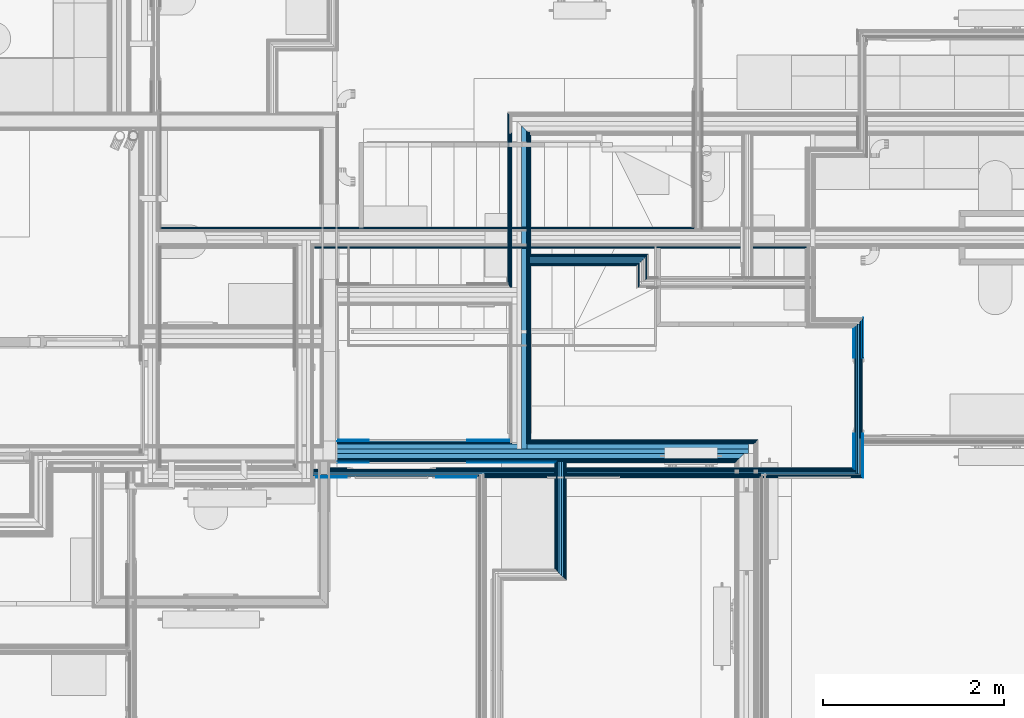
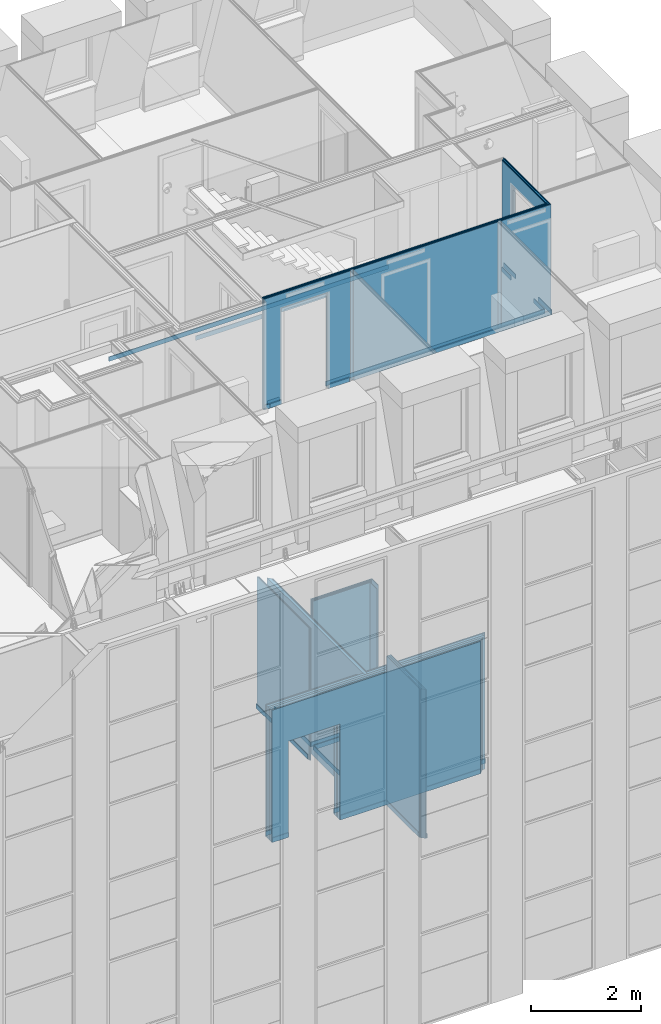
# One storey, part 39 of 169: 62 building element parts, 4 openings, 8 elements without a shape of their own.
"""IFC2X3 building model written with IfcOpenShell, lengths in metres."""

from ifc_helpers import new_model, entity, si_unit, converted_unit, derived_unit, money_unit, direction, frame, frame_2d, origin_with_axes, place, context, subcontext, project, spatial, polyline, rectangle, outline, extrude, material, type_object, element, aggregate, save


model = new_model("IFC2X3")

# Units and contexts
model_context = context("Model", 3, precision=1e-05, world=origin_with_axes(), true_north=direction((0.0, 1.0)))
body_context = subcontext(model_context, "Body", "Model", "MODEL_VIEW", scale=1.0)
ifc_project = project(units=[si_unit("LENGTHUNIT", "METRE"), si_unit("AREAUNIT", "SQUARE_METRE"), si_unit("VOLUMEUNIT", "CUBIC_METRE"), si_unit("ABSORBEDDOSEUNIT", "GRAY"), si_unit("AMOUNTOFSUBSTANCEUNIT", "MOLE"), si_unit("DOSEEQUIVALENTUNIT", "SIEVERT"), si_unit("ELECTRICCAPACITANCEUNIT", "FARAD"), si_unit("ELECTRICCHARGEUNIT", "COULOMB"), si_unit("ELECTRICCONDUCTANCEUNIT", "SIEMENS"), si_unit("ELECTRICCURRENTUNIT", "AMPERE"), si_unit("ELECTRICRESISTANCEUNIT", "OHM"), si_unit("ELECTRICVOLTAGEUNIT", "VOLT"), si_unit("ENERGYUNIT", "JOULE"), si_unit("FORCEUNIT", "NEWTON"), si_unit("FREQUENCYUNIT", "HERTZ"), si_unit("ILLUMINANCEUNIT", "LUX"), si_unit("INDUCTANCEUNIT", "HENRY"), si_unit("LUMINOUSFLUXUNIT", "LUMEN"), si_unit("LUMINOUSINTENSITYUNIT", "CANDELA"), si_unit("MAGNETICFLUXDENSITYUNIT", "TESLA"), si_unit("MAGNETICFLUXUNIT", "WEBER"), si_unit("MASSUNIT", "GRAM"), converted_unit("PLANEANGLEUNIT", "degree", entity("IfcReal", 0.0174532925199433), si_unit("PLANEANGLEUNIT", "RADIAN"), dimensions=[0, 0, 0, 0, 0, 0, 0]), si_unit("POWERUNIT", "WATT"), si_unit("PRESSUREUNIT", "PASCAL"), si_unit("RADIOACTIVITYUNIT", "BECQUEREL"), si_unit("SOLIDANGLEUNIT", "STERADIAN"), si_unit("THERMODYNAMICTEMPERATUREUNIT", "KELVIN"), si_unit("TIMEUNIT", "SECOND"), derived_unit("ACCELERATIONUNIT", [(si_unit("LENGTHUNIT", "METRE"), 1), (si_unit("TIMEUNIT", "SECOND"), -2)]), derived_unit("ANGULARVELOCITYUNIT", [(converted_unit("PLANEANGLEUNIT", "degree", entity("IfcReal", 0.0174532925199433), si_unit("PLANEANGLEUNIT", "RADIAN"), dimensions=[0, 0, 0, 0, 0, 0, 0]), 1), (si_unit("TIMEUNIT", "SECOND"), -1)]), derived_unit("CURVATUREUNIT", [(converted_unit("PLANEANGLEUNIT", "degree", entity("IfcReal", 0.0174532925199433), si_unit("PLANEANGLEUNIT", "RADIAN"), dimensions=[0, 0, 0, 0, 0, 0, 0]), 1), (si_unit("LENGTHUNIT", "METRE"), -1)]), derived_unit("DYNAMICVISCOSITYUNIT", [(si_unit("PRESSUREUNIT", "PASCAL"), 1), (si_unit("TIMEUNIT", "SECOND"), 1)]), derived_unit("HEATFLUXDENSITYUNIT", [(si_unit("POWERUNIT", "WATT"), 1), (si_unit("LENGTHUNIT", "METRE"), -2)]), derived_unit("HEATINGVALUEUNIT", [(si_unit("ENERGYUNIT", "JOULE"), 1), (si_unit("MASSUNIT", "GRAM"), -1)]), derived_unit("INTEGERCOUNTRATEUNIT", [(si_unit("TIMEUNIT", "SECOND"), -1)]), derived_unit("IONCONCENTRATIONUNIT", [(si_unit("MASSUNIT", "GRAM"), 1), (si_unit("VOLUMEUNIT", "CUBIC_METRE"), -1)]), derived_unit("ISOTHERMALMOISTURECAPACITYUNIT", [(si_unit("VOLUMEUNIT", "CUBIC_METRE"), 1), (si_unit("MASSUNIT", "GRAM"), -1)]), derived_unit("KINEMATICVISCOSITYUNIT", [(si_unit("AREAUNIT", "SQUARE_METRE"), 1), (si_unit("TIMEUNIT", "SECOND"), -1)]), derived_unit("LINEARFORCEUNIT", [(si_unit("FORCEUNIT", "NEWTON"), 1), (si_unit("LENGTHUNIT", "METRE"), -1)]), derived_unit("LINEARMOMENTUNIT", [(si_unit("FORCEUNIT", "NEWTON"), 1), (si_unit("LENGTHUNIT", "METRE"), -1)]), derived_unit("LINEARSTIFFNESSUNIT", [(si_unit("FORCEUNIT", "NEWTON"), 1), (si_unit("LENGTHUNIT", "METRE"), -1)]), derived_unit("LINEARVELOCITYUNIT", [(si_unit("LENGTHUNIT", "METRE"), 1), (si_unit("TIMEUNIT", "SECOND"), -1)]), derived_unit("LUMINOUSINTENSITYDISTRIBUTIONUNIT", [(si_unit("LUMINOUSINTENSITYUNIT", "CANDELA"), 1), (si_unit("LUMINOUSFLUXUNIT", "LUMEN"), -1)]), derived_unit("MASSDENSITYUNIT", [(si_unit("MASSUNIT", "GRAM"), 1), (si_unit("VOLUMEUNIT", "CUBIC_METRE"), -1)]), derived_unit("MASSFLOWRATEUNIT", [(si_unit("MASSUNIT", "GRAM"), 1), (si_unit("TIMEUNIT", "SECOND"), -1)]), derived_unit("MASSPERLENGTHUNIT", [(si_unit("MASSUNIT", "GRAM"), 1), (si_unit("LENGTHUNIT", "METRE"), -1)]), derived_unit("MODULUSOFELASTICITYUNIT", [(si_unit("FORCEUNIT", "NEWTON"), 1), (si_unit("AREAUNIT", "SQUARE_METRE"), -1)]), derived_unit("MODULUSOFLINEARSUBGRADEREACTIONUNIT", [(si_unit("FORCEUNIT", "NEWTON"), 1), (si_unit("LENGTHUNIT", "METRE"), -2)]), derived_unit("MODULUSOFROTATIONALSUBGRADEREACTIONUNIT", [(si_unit("FORCEUNIT", "NEWTON"), 1), (si_unit("LENGTHUNIT", "METRE"), 1)]), derived_unit("MODULUSOFSUBGRADEREACTIONUNIT", [(si_unit("FORCEUNIT", "NEWTON"), 1), (si_unit("VOLUMEUNIT", "CUBIC_METRE"), -1)]), derived_unit("MOISTUREDIFFUSIVITYUNIT", [(si_unit("VOLUMEUNIT", "CUBIC_METRE"), 1), (si_unit("TIMEUNIT", "SECOND"), -1)]), derived_unit("MOLECULARWEIGHTUNIT", [(si_unit("MASSUNIT", "GRAM"), 1), (si_unit("AMOUNTOFSUBSTANCEUNIT", "MOLE"), -1)]), derived_unit("PLANARFORCEUNIT", [(si_unit("FORCEUNIT", "NEWTON"), 1), (si_unit("LENGTHUNIT", "METRE"), -2)]), derived_unit("ROTATIONALFREQUENCYUNIT", [(si_unit("TIMEUNIT", "SECOND"), -1)]), derived_unit("ROTATIONALMASSUNIT", [(si_unit("MASSUNIT", "GRAM"), 1), (si_unit("LENGTHUNIT", "METRE"), 2)]), derived_unit("ROTATIONALSTIFFNESSUNIT", [(si_unit("FORCEUNIT", "NEWTON"), 1), (si_unit("LENGTHUNIT", "METRE"), 1), (converted_unit("PLANEANGLEUNIT", "degree", entity("IfcReal", 0.0174532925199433), si_unit("PLANEANGLEUNIT", "RADIAN"), dimensions=[0, 0, 0, 0, 0, 0, 0]), -1)]), derived_unit("SECTIONAREAINTEGRALUNIT", [(si_unit("LENGTHUNIT", "METRE"), 5)]), derived_unit("SECTIONMODULUSUNIT", [(si_unit("LENGTHUNIT", "METRE"), 3)]), derived_unit("SHEARMODULUSUNIT", [(si_unit("FORCEUNIT", "NEWTON"), 1), (si_unit("AREAUNIT", "SQUARE_METRE"), -1)]), derived_unit("SOUNDPOWERUNIT", [(si_unit("ENERGYUNIT", "JOULE"), 1), (si_unit("TIMEUNIT", "SECOND"), -1)]), derived_unit("SPECIFICHEATCAPACITYUNIT", [(si_unit("FORCEUNIT", "NEWTON"), 1), (si_unit("MASSUNIT", "GRAM"), -1), (si_unit("THERMODYNAMICTEMPERATUREUNIT", "KELVIN"), -1)]), derived_unit("TEMPERATUREGRADIENTUNIT", [(si_unit("THERMODYNAMICTEMPERATUREUNIT", "KELVIN"), 1), (si_unit("LENGTHUNIT", "METRE"), -1)]), derived_unit("THERMALADMITTANCEUNIT", [(si_unit("POWERUNIT", "WATT"), 1), (si_unit("AREAUNIT", "SQUARE_METRE"), -1), (si_unit("THERMODYNAMICTEMPERATUREUNIT", "KELVIN"), -1)]), derived_unit("THERMALCONDUCTANCEUNIT", [(si_unit("POWERUNIT", "WATT"), 1), (si_unit("LENGTHUNIT", "METRE"), -1), (si_unit("THERMODYNAMICTEMPERATUREUNIT", "KELVIN"), -1)]), derived_unit("THERMALEXPANSIONCOEFFICIENTUNIT", [(si_unit("THERMODYNAMICTEMPERATUREUNIT", "KELVIN"), -1)]), derived_unit("THERMALRESISTANCEUNIT", [(si_unit("AREAUNIT", "SQUARE_METRE"), 1), (si_unit("POWERUNIT", "WATT"), -1)]), derived_unit("THERMALTRANSMITTANCEUNIT", [(si_unit("POWERUNIT", "WATT"), 1), (si_unit("AREAUNIT", "SQUARE_METRE"), -1), (si_unit("THERMODYNAMICTEMPERATUREUNIT", "KELVIN"), -1)]), derived_unit("TORQUEUNIT", [(si_unit("FORCEUNIT", "NEWTON"), 1), (si_unit("LENGTHUNIT", "METRE"), 1)]), derived_unit("VAPORPERMEABILITYUNIT", [(si_unit("MASSUNIT", "GRAM"), 1), (si_unit("TIMEUNIT", "SECOND"), -1)]), derived_unit("VOLUMETRICFLOWRATEUNIT", [(si_unit("VOLUMEUNIT", "CUBIC_METRE"), 1), (si_unit("TIMEUNIT", "SECOND"), -1)]), derived_unit("WARPINGCONSTANTUNIT", [(si_unit("LENGTHUNIT", "METRE"), 6)]), derived_unit("WARPINGMOMENTUNIT", [(si_unit("FORCEUNIT", "NEWTON"), 1), (si_unit("LENGTHUNIT", "METRE"), 2)]), money_unit("GBP")], contexts=[model_context])

# Site, building, storey
site_placement = place(None, origin_with_axes())
site = spatial("IfcSite", under=ifc_project, at=site_placement, Name="Site", CompositionType="ELEMENT")
building_placement = place(site_placement, origin_with_axes())
building = spatial("IfcBuilding", under=site, at=building_placement, Name="Building01", CompositionType="ELEMENT")
storey_placement = place(building_placement, frame((0.0, 0.0, 5.15), z_axis=(0.0, 0.0, 1.0), x_axis=(1.0, 0.0, 0.0)))
storey = spatial("IfcBuildingStorey", under=building, at=storey_placement, Name="1F", CompositionType="ELEMENT", Elevation=5.15)

# Wall, openings, building element parts
wall_type_1 = type_object("IfcWallType", Name="SHE_A-Walls_Type01c_Partywall_225mm_twin_tall", PredefinedType="NOTDEFINED")
wall_1_placement = place(storey_placement, frame((18.0, 5.068, 0.0), z_axis=(0.0, 0.0, 1.0), x_axis=(1.0, 0.0, 0.0)))
wall_1 = element("IfcWall", 1, at=wall_1_placement, inside=storey, type_object=wall_type_1, Name="1C", ObjectType="SHE_A-Walls_Type01c_Partywall_225mm_twin_tall")
opening_1_placement = place(wall_1_placement, frame((0.353, 0.152, -0.03), z_axis=(0.0, 0.0, 1.0), x_axis=(1.0, 0.0, 0.0)))
element("IfcOpeningElement", 2, at=opening_1_placement, cuts=wall_1, Name="Opening", ObjectType="Opening", context=body_context, shape_type="SweptSolid", body=[
    extrude(rectangle(XDim=2.142, YDim=1.084, at=frame_2d((0.542, 1.071), x_axis=(0.0, -1.0))), frame((0.0, 0.0, 0.0), z_axis=(0.0, -1.0, 0.0), x_axis=(1.0, 0.0, 0.0)), (0.0, 0.0, 1.0), 0.255),
])
opening_2_placement = place(wall_1_placement, frame((0.35, 0.152, 0.0), z_axis=(0.0, 0.0, 1.0), x_axis=(1.0, 0.0, 0.0)))
element("IfcOpeningElement", 3, at=opening_2_placement, cuts=wall_1, Name="Opening", ObjectType="Opening", context=body_context, shape_type="SweptSolid", body=[
    extrude(rectangle(XDim=2.142, YDim=1.084, at=frame_2d((0.542, 1.071), x_axis=(0.0, -1.0))), frame((0.0, 0.0, 0.0), z_axis=(0.0, -1.0, 0.0), x_axis=(1.0, 0.0, 0.0)), (0.0, 0.0, 1.0), 0.255),
])
ifc_material_1 = material(Name="A_BSUK_Walls_Timber")
placement_1 = place(wall_1_placement, origin_with_axes())
building_element_part_1 = element("IfcBuildingElementPart", 4, at=placement_1, material=ifc_material_1, Name="1", context=body_context, shape_type="SweptSolid", body=[
    extrude(rectangle(XDim=2.415, YDim=0.015, at=frame_2d((1.2075, -0.0955), x_axis=(-1.0, 0.0))), frame((0.0, 0.0, 0.015), z_axis=(0.0, 0.0, 1.0), x_axis=(1.0, 0.0, 0.0)), (0.0, 0.0, 1.0), 0.1),
])
building_element_part_2 = element("IfcBuildingElementPart", 5, at=placement_1, material=ifc_material_1, Name="2", context=body_context, shape_type="SweptSolid", body=[
    extrude(outline(polyline([(4.4, -0.088), (2.51, -0.088), (2.51, -0.103), (4.385, -0.103), (4.4, -0.088)])), frame((0.0, 0.0, 0.015), z_axis=(0.0, 0.0, 1.0), x_axis=(1.0, 0.0, 0.0)), (0.0, 0.0, 1.0), 0.1),
])
ifc_material_2 = material(Name="A_BSUK_WallInternal_Finishes_Plasterboard")
building_element_part_3 = element("IfcBuildingElementPart", 6, at=placement_1, material=ifc_material_2, Name="3", context=body_context, shape_type="SweptSolid", body=[
    extrude(outline(polyline([(4.415, -0.073), (0.0, -0.073), (0.0, -0.088), (4.4, -0.088), (4.415, -0.073)])), origin_with_axes(), (0.0, 0.0, 1.0), 2.95),
])
building_element_part_4 = element("IfcBuildingElementPart", 7, at=placement_1, material=ifc_material_2, Name="4", context=body_context, shape_type="SweptSolid", body=[
    extrude(outline(polyline([(4.415, -0.073), (0.0, -0.073), (0.0, -0.088), (4.4, -0.088), (4.415, -0.073)])), origin_with_axes(), (0.0, 0.0, 1.0), 2.95),
])
building_element_part_5 = element("IfcBuildingElementPart", 8, at=placement_1, material=ifc_material_2, Name="5", context=body_context, shape_type="SweptSolid", body=[
    extrude(outline(polyline([(4.43, -0.058), (0.0, -0.058), (0.0, -0.073), (4.415, -0.073), (4.43, -0.058)])), origin_with_axes(), (0.0, 0.0, 1.0), 2.95),
])
ifc_material_3 = material(Name="Air Cavity")
building_element_part_6 = element("IfcBuildingElementPart", 9, at=placement_1, material=ifc_material_3, Name="6", context=body_context, shape_type="SweptSolid", body=[
    extrude(outline(polyline([(4.488, 0.0), (0.0, 0.0), (0.0, -0.058), (4.43, -0.058), (4.488, 0.0)])), origin_with_axes(), (0.0, 0.0, 1.0), 2.95),
])
ifc_material_4 = material(Name="A_BSUK_Insulation")
building_element_part_7 = element("IfcBuildingElementPart", 10, at=placement_1, material=ifc_material_4, Name="7", context=body_context, shape_type="SweptSolid", body=[
    extrude(rectangle(XDim=4.538, YDim=0.05, at=frame_2d((2.269, 0.025), x_axis=(-1.0, 0.0))), origin_with_axes(), (0.0, 0.0, 1.0), 2.95),
])
building_element_part_8 = element("IfcBuildingElementPart", 11, at=placement_1, material=ifc_material_3, Name="8", context=body_context, shape_type="SweptSolid", body=[
    extrude(rectangle(XDim=4.538, YDim=0.057, at=frame_2d((2.269, 0.0785), x_axis=(-1.0, 0.0))), origin_with_axes(), (0.0, 0.0, 1.0), 2.95),
])
building_element_part_9 = element("IfcBuildingElementPart", 12, at=placement_1, material=ifc_material_2, Name="9", context=body_context, shape_type="SweptSolid", body=[
    extrude(rectangle(XDim=1.927661, YDim=0.015, at=frame_2d((0.963831, 0.1145), x_axis=(-1.0, 0.0))), origin_with_axes(), (0.0, 0.0, 1.0), 2.95),
])
building_element_part_10 = element("IfcBuildingElementPart", 13, at=placement_1, material=ifc_material_2, Name="10", context=body_context, shape_type="SweptSolid", body=[
    extrude(outline(polyline([(4.61, 0.122), (2.107661, 0.122), (2.107661, 0.107), (4.595, 0.107), (4.61, 0.122)])), origin_with_axes(), (0.0, 0.0, 1.0), 2.95),
])
building_element_part_11 = element("IfcBuildingElementPart", 14, at=placement_1, material=ifc_material_2, Name="11", context=body_context, shape_type="SweptSolid", body=[
    extrude(rectangle(XDim=1.912661, YDim=0.015, at=frame_2d((0.956331, 0.1295), x_axis=(-1.0, 0.0))), origin_with_axes(), (0.0, 0.0, 1.0), 2.95),
])
building_element_part_12 = element("IfcBuildingElementPart", 15, at=placement_1, material=ifc_material_2, Name="12", context=body_context, shape_type="SweptSolid", body=[
    extrude(outline(polyline([(4.625, 0.137), (2.107661, 0.137), (2.107661, 0.122), (4.61, 0.122), (4.625, 0.137)])), origin_with_axes(), (0.0, 0.0, 1.0), 2.95),
])
building_element_part_13 = element("IfcBuildingElementPart", 16, at=placement_1, material=ifc_material_1, Name="13", context=body_context, shape_type="SweptSolid", body=[
    extrude(outline(polyline([(1.897661, 0.152), (0.015, 0.152), (0.0, 0.137), (1.897661, 0.137), (1.897661, 0.152)])), frame((0.0, 0.0, 0.015), z_axis=(0.0, 0.0, 1.0), x_axis=(1.0, 0.0, 0.0)), (0.0, 0.0, 1.0), 0.1),
])
building_element_part_14 = element("IfcBuildingElementPart", 17, at=placement_1, material=ifc_material_1, Name="14", context=body_context, shape_type="SweptSolid", body=[
    extrude(outline(polyline([(4.64, 0.152), (2.137661, 0.152), (2.137661, 0.137), (4.625, 0.137), (4.64, 0.152)])), frame((0.0, 0.0, 0.015), z_axis=(0.0, 0.0, 1.0), x_axis=(1.0, 0.0, 0.0)), (0.0, 0.0, 1.0), 0.1),
])
aggregate(wall_1, [building_element_part_1, building_element_part_2, building_element_part_3, building_element_part_4, building_element_part_5, building_element_part_6, building_element_part_7, building_element_part_8, building_element_part_9, building_element_part_10, building_element_part_11, building_element_part_12, building_element_part_13, building_element_part_14])

# Wall, building element parts
wall_2_placement = place(storey_placement, frame((19.985661, 8.732, 0.0), z_axis=(0.0, 0.0, 1.0), x_axis=(0.0, -1.0, 0.0)))
wall_2 = element("IfcWall", 18, at=wall_2_placement, inside=storey, type_object=wall_type_1, Name="1C", ObjectType="SHE_A-Walls_Type01c_Partywall_225mm_twin_tall")
placement_2 = place(wall_2_placement, origin_with_axes())
building_element_part_15 = element("IfcBuildingElementPart", 19, at=placement_2, material=ifc_material_1, Name="1", context=body_context, shape_type="SweptSolid", body=[
    extrude(outline(polyline([(1.787, -0.088), (-0.073, -0.088), (-0.088, -0.103), (1.787, -0.103), (1.787, -0.088)])), frame((0.0, 0.0, 0.015), z_axis=(0.0, 0.0, 1.0), x_axis=(1.0, 0.0, 0.0)), (0.0, 0.0, 1.0), 0.1),
])
building_element_part_16 = element("IfcBuildingElementPart", 20, at=placement_2, material=ifc_material_1, Name="2", context=body_context, shape_type="SweptSolid", body=[
    extrude(outline(polyline([(1.802, -0.088), (-0.073, -0.088), (-0.088, -0.103), (1.802, -0.103), (1.802, -0.088)])), frame((0.0, 0.0, 0.015), z_axis=(0.0, 0.0, 1.0), x_axis=(1.0, 0.0, 0.0)), (0.0, 0.0, 1.0), 0.1),
])
building_element_part_17 = element("IfcBuildingElementPart", 21, at=placement_2, material=ifc_material_2, Name="3", context=body_context, shape_type="SweptSolid", body=[
    extrude(rectangle(XDim=1.89, YDim=0.015, at=frame_2d((0.872, -0.0805), x_axis=(-1.0, 0.0))), origin_with_axes(), (0.0, 0.0, 1.0), 2.95),
])
building_element_part_18 = element("IfcBuildingElementPart", 22, at=placement_2, material=ifc_material_2, Name="6", context=body_context, shape_type="SweptSolid", body=[
    extrude(rectangle(XDim=1.89, YDim=0.015, at=frame_2d((0.887, -0.0655), x_axis=(-1.0, 0.0))), origin_with_axes(), (0.0, 0.0, 1.0), 2.95),
])
building_element_part_19 = element("IfcBuildingElementPart", 23, at=placement_2, material=ifc_material_3, Name="11", context=body_context, shape_type="SweptSolid", body=[
    extrude(outline(polyline([(3.614, 0.107), (0.107, 0.107), (0.05, 0.05), (3.614, 0.05), (3.614, 0.107)])), origin_with_axes(), (0.0, 0.0, 1.0), 2.95),
])
building_element_part_20 = element("IfcBuildingElementPart", 24, at=placement_2, material=ifc_material_2, Name="12", context=body_context, shape_type="SweptSolid", body=[
    extrude(outline(polyline([(3.557, 0.122), (0.122, 0.122), (0.107, 0.107), (3.557, 0.107), (3.557, 0.122)])), origin_with_axes(), (0.0, 0.0, 1.0), 2.95),
])
building_element_part_21 = element("IfcBuildingElementPart", 25, at=placement_2, material=ifc_material_2, Name="13", context=body_context, shape_type="SweptSolid", body=[
    extrude(rectangle(XDim=3.405, YDim=0.015, at=frame_2d((1.8245, 0.1295), x_axis=(-1.0, 0.0))), origin_with_axes(), (0.0, 0.0, 1.0), 2.95),
])
building_element_part_22 = element("IfcBuildingElementPart", 26, at=placement_2, material=ifc_material_1, Name="14", context=body_context, shape_type="SweptSolid", body=[
    extrude(rectangle(XDim=1.33, YDim=0.015, at=frame_2d((0.817, 0.1445), x_axis=(-1.0, 0.0))), frame((0.0, 0.0, 0.015), z_axis=(0.0, 0.0, 1.0), x_axis=(1.0, 0.0, 0.0)), (0.0, 0.0, 1.0), 0.1),
])
building_element_part_23 = element("IfcBuildingElementPart", 27, at=placement_2, material=ifc_material_1, Name="15", context=body_context, shape_type="SweptSolid", body=[
    extrude(rectangle(XDim=1.935, YDim=0.015, at=frame_2d((2.5595, 0.1445), x_axis=(-1.0, 0.0))), frame((0.0, 0.0, 0.015), z_axis=(0.0, 0.0, 1.0), x_axis=(1.0, 0.0, 0.0)), (0.0, 0.0, 1.0), 0.1),
])
aggregate(wall_2, [building_element_part_15, building_element_part_16, building_element_part_17, building_element_part_18, building_element_part_19, building_element_part_20, building_element_part_21, building_element_part_22, building_element_part_23])

wall_type_2 = type_object("IfcWallType", Name="SHE_A-Walls_Type05a_Partition_95mm_tall", PredefinedType="NOTDEFINED")
wall_3_placement = place(storey_placement, frame((21.382661, 6.965, 0.0), z_axis=(0.0, 0.0, 1.0), x_axis=(0.0, 1.0, 0.0)))
wall_3 = element("IfcWall", 28, at=wall_3_placement, inside=storey, type_object=wall_type_2, Name="5A", ObjectType="SHE_A-Walls_Type05a_Partition_95mm_tall")
placement_3 = place(wall_3_placement, origin_with_axes())
building_element_part_24 = element("IfcBuildingElementPart", 29, at=placement_3, material=ifc_material_2, Name="2", context=body_context, shape_type="SweptSolid", body=[
    extrude(outline(polyline([(0.273, -0.023), (0.023, -0.023), (0.035, -0.035), (0.285, -0.035), (0.273, -0.023)])), origin_with_axes(), (0.0, 0.0, 1.0), 3.32),
])
building_element_part_25 = element("IfcBuildingElementPart", 30, at=placement_3, material=ifc_material_2, Name="6", context=body_context, shape_type="SweptSolid", body=[
    extrude(outline(polyline([(0.19, 0.06), (-0.06, 0.06), (-0.048, 0.048), (0.202, 0.048), (0.19, 0.06)])), origin_with_axes(), (0.0, 0.0, 1.0), 3.32),
])
aggregate(wall_3, [building_element_part_24, building_element_part_25])

wall_4_placement = place(storey_placement, frame((21.382661, 7.215, 0.0), z_axis=(0.0, 0.0, 1.0), x_axis=(-1.0, 0.0, 0.0)))
wall_4 = element("IfcWall", 31, at=wall_4_placement, inside=storey, type_object=wall_type_2, Name="5A", ObjectType="SHE_A-Walls_Type05a_Partition_95mm_tall")
placement_4 = place(wall_4_placement, origin_with_axes())
building_element_part_26 = element("IfcBuildingElementPart", 32, at=placement_4, material=ifc_material_1, Name="1", context=body_context, shape_type="SweptSolid", body=[
    extrude(outline(polyline([(1.245, -0.035), (-0.035, -0.035), (-0.05, -0.05), (1.245, -0.05), (1.245, -0.035)])), frame((0.0, 0.0, 0.015), z_axis=(0.0, 0.0, 1.0), x_axis=(1.0, 0.0, 0.0)), (0.0, 0.0, 1.0), 0.1),
])
building_element_part_27 = element("IfcBuildingElementPart", 33, at=placement_4, material=ifc_material_2, Name="2", context=body_context, shape_type="SweptSolid", body=[
    extrude(outline(polyline([(1.26, -0.023), (-0.023, -0.023), (-0.035, -0.035), (1.26, -0.035), (1.26, -0.023)])), origin_with_axes(), (0.0, 0.0, 1.0), 3.32),
])
building_element_part_28 = element("IfcBuildingElementPart", 34, at=placement_4, material=ifc_material_3, Name="3", context=body_context, shape_type="SweptSolid", body=[
    extrude(outline(polyline([(1.26, 0.0), (0.0, 0.0), (-0.023, -0.023), (1.26, -0.023), (1.26, 0.0)])), origin_with_axes(), (0.0, 0.0, 1.0), 3.32),
])
building_element_part_29 = element("IfcBuildingElementPart", 35, at=placement_4, material=ifc_material_4, Name="4", context=body_context, shape_type="SweptSolid", body=[
    extrude(outline(polyline([(1.26, 0.025), (0.025, 0.025), (0.0, 0.0), (1.26, 0.0), (1.26, 0.025)])), origin_with_axes(), (0.0, 0.0, 1.0), 3.32),
])
building_element_part_30 = element("IfcBuildingElementPart", 36, at=placement_4, material=ifc_material_3, Name="5", context=body_context, shape_type="SweptSolid", body=[
    extrude(outline(polyline([(1.26, 0.048), (0.048, 0.048), (0.025, 0.025), (1.26, 0.025), (1.26, 0.048)])), origin_with_axes(), (0.0, 0.0, 1.0), 3.32),
])
building_element_part_31 = element("IfcBuildingElementPart", 37, at=placement_4, material=ifc_material_2, Name="6", context=body_context, shape_type="SweptSolid", body=[
    extrude(outline(polyline([(1.26, 0.06), (0.06, 0.06), (0.048, 0.048), (1.26, 0.048), (1.26, 0.06)])), origin_with_axes(), (0.0, 0.0, 1.0), 3.32),
])
building_element_part_32 = element("IfcBuildingElementPart", 38, at=placement_4, material=ifc_material_1, Name="7", context=body_context, shape_type="SweptSolid", body=[
    extrude(outline(polyline([(1.26, 0.075), (0.075, 0.075), (0.06, 0.06), (1.26, 0.06), (1.26, 0.075)])), frame((0.0, 0.0, 0.015), z_axis=(0.0, 0.0, 1.0), x_axis=(1.0, 0.0, 0.0)), (0.0, 0.0, 1.0), 0.1),
])
aggregate(wall_4, [building_element_part_26, building_element_part_27, building_element_part_28, building_element_part_29, building_element_part_30, building_element_part_31, building_element_part_32])

wall_5_placement = place(storey_placement, frame((20.475, 3.72, 0.0), z_axis=(0.0, 0.0, 1.0), x_axis=(0.0, 1.0, 0.0)))
wall_5 = element("IfcWall", 39, at=wall_5_placement, inside=storey, type_object=wall_type_2, Name="5A", ObjectType="SHE_A-Walls_Type05a_Partition_95mm_tall")
placement_5 = place(wall_5_placement, origin_with_axes())
building_element_part_33 = element("IfcBuildingElementPart", 40, at=placement_5, material=ifc_material_1, Name="1", context=body_context, shape_type="SweptSolid", body=[
    extrude(outline(polyline([(1.245, -0.035), (-0.035, -0.035), (-0.05, -0.05), (1.245, -0.05), (1.245, -0.035)])), frame((0.0, 0.0, 0.015), z_axis=(0.0, 0.0, 1.0), x_axis=(1.0, 0.0, 0.0)), (0.0, 0.0, 1.0), 0.1),
])
building_element_part_34 = element("IfcBuildingElementPart", 41, at=placement_5, material=ifc_material_2, Name="2", context=body_context, shape_type="SweptSolid", body=[
    extrude(outline(polyline([(1.26, -0.023), (-0.023, -0.023), (-0.035, -0.035), (1.26, -0.035), (1.26, -0.023)])), origin_with_axes(), (0.0, 0.0, 1.0), 3.32),
])
building_element_part_35 = element("IfcBuildingElementPart", 42, at=placement_5, material=ifc_material_3, Name="3", context=body_context, shape_type="SweptSolid", body=[
    extrude(outline(polyline([(1.26, 0.0), (0.0, 0.0), (-0.023, -0.023), (1.26, -0.023), (1.26, 0.0)])), origin_with_axes(), (0.0, 0.0, 1.0), 3.32),
])
building_element_part_36 = element("IfcBuildingElementPart", 43, at=placement_5, material=ifc_material_4, Name="4", context=body_context, shape_type="SweptSolid", body=[
    extrude(outline(polyline([(1.26, 0.025), (0.025, 0.025), (0.0, 0.0), (1.26, 0.0), (1.26, 0.025)])), origin_with_axes(), (0.0, 0.0, 1.0), 3.32),
])
building_element_part_37 = element("IfcBuildingElementPart", 44, at=placement_5, material=ifc_material_3, Name="5", context=body_context, shape_type="SweptSolid", body=[
    extrude(outline(polyline([(1.26, 0.048), (0.048, 0.048), (0.025, 0.025), (1.26, 0.025), (1.26, 0.048)])), origin_with_axes(), (0.0, 0.0, 1.0), 3.32),
])
building_element_part_38 = element("IfcBuildingElementPart", 45, at=placement_5, material=ifc_material_2, Name="6", context=body_context, shape_type="SweptSolid", body=[
    extrude(outline(polyline([(1.26, 0.06), (0.06, 0.06), (0.048, 0.048), (1.26, 0.048), (1.26, 0.06)])), origin_with_axes(), (0.0, 0.0, 1.0), 3.32),
])
building_element_part_39 = element("IfcBuildingElementPart", 46, at=placement_5, material=ifc_material_1, Name="7", context=body_context, shape_type="SweptSolid", body=[
    extrude(outline(polyline([(1.245, 0.075), (0.075, 0.075), (0.06, 0.06), (1.245, 0.06), (1.245, 0.075)])), frame((0.0, 0.0, 0.015), z_axis=(0.0, 0.0, 1.0), x_axis=(1.0, 0.0, 0.0)), (0.0, 0.0, 1.0), 0.1),
])
aggregate(wall_5, [building_element_part_33, building_element_part_34, building_element_part_35, building_element_part_36, building_element_part_37, building_element_part_38, building_element_part_39])

wall_type_3 = type_object("IfcWallType", Name="SHE_A-Walls_Type01d_Partywall_200mm_twin", PredefinedType="NOTDEFINED")
wall_6_placement = place(storey_placement, frame((26.380061, 7.474915, 9.83), z_axis=(0.0, 0.0, 1.0), x_axis=(-1.0, 0.0, 0.0)))
wall_6 = element("IfcWall", 47, at=wall_6_placement, inside=storey, type_object=wall_type_3, Name="1D", ObjectType="SHE_A-Walls_Type01d_Partywall_200mm_twin")
placement_6 = place(wall_6_placement, origin_with_axes())
building_element_part_40 = element("IfcBuildingElementPart", 48, at=placement_6, material=ifc_material_1, Name="3", context=body_context, shape_type="SweptSolid", body=[
    extrude(rectangle(XDim=5.886536, YDim=0.015, at=frame_2d((7.383353, -0.0825), x_axis=(-1.0, 0.0))), frame((0.0, 0.0, 0.015), z_axis=(0.0, 0.0, 1.0), x_axis=(1.0, 0.0, 0.0)), (0.0, 0.0, 1.0), 0.1),
])
building_element_part_41 = element("IfcBuildingElementPart", 49, at=placement_6, material=ifc_material_1, Name="4", context=body_context, shape_type="SweptSolid", body=[
    extrude(rectangle(XDim=5.886536, YDim=0.015, at=frame_2d((7.383353, -0.0825), x_axis=(-1.0, 0.0))), frame((0.0, 0.0, 0.015), z_axis=(0.0, 0.0, 1.0), x_axis=(1.0, 0.0, 0.0)), (0.0, 0.0, 1.0), 0.1),
])
building_element_part_42 = element("IfcBuildingElementPart", 50, at=placement_6, material=ifc_material_1, Name="16", context=body_context, shape_type="SweptSolid", body=[
    extrude(rectangle(XDim=5.425382, YDim=0.015, at=frame_2d((5.91393, 0.1325), x_axis=(-1.0, 0.0))), frame((0.0, 0.0, 0.015), z_axis=(0.0, 0.0, 1.0), x_axis=(1.0, 0.0, 0.0)), (0.0, 0.0, 1.0), 0.1),
])
aggregate(wall_6, [building_element_part_40, building_element_part_41, building_element_part_42])

# Wall, opening, building element parts
wall_type_4 = type_object("IfcWallType", Name="SHE_A-Walls_Type05b_Partition_80mm", PredefinedType="NOTDEFINED")
wall_7_placement = place(storey_placement, frame((23.763, 4.844, 9.83), z_axis=(0.0, 0.0, 1.0), x_axis=(0.0, 1.0, 0.0)))
wall_7 = element("IfcWall", 51, at=wall_7_placement, inside=storey, type_object=wall_type_4, Name="5B", ObjectType="SHE_A-Walls_Type05b_Partition_80mm")
opening_3_placement = place(wall_7_placement, frame((0.444939, 0.068, 0.0), z_axis=(0.0, 0.0, 1.0), x_axis=(1.0, 0.0, 0.0)))
element("IfcOpeningElement", 52, at=opening_3_placement, cuts=wall_7, Name="Opening", ObjectType="Opening", context=body_context, shape_type="SweptSolid", body=[
    extrude(rectangle(XDim=2.142, YDim=0.834, at=frame_2d((0.417, 1.071), x_axis=(0.0, -1.0))), frame((0.0, 0.0, 0.0), z_axis=(0.0, -1.0, 0.0), x_axis=(1.0, 0.0, 0.0)), (0.0, 0.0, 1.0), 0.11),
])
placement_7 = place(wall_7_placement, origin_with_axes())
building_element_part_43 = element("IfcBuildingElementPart", 53, at=placement_7, material=ifc_material_1, Name="1", context=body_context, shape_type="SweptSolid", body=[
    extrude(outline(polyline([(1.706085, -0.027), (-0.027, -0.027), (-0.042, -0.042), (1.721085, -0.042), (1.706085, -0.027)])), frame((0.0, 0.0, 0.015), z_axis=(0.0, 0.0, 1.0), x_axis=(1.0, 0.0, 0.0)), (0.0, 0.0, 1.0), 0.1),
])
building_element_part_44 = element("IfcBuildingElementPart", 54, at=placement_7, material=ifc_material_1, Name="2", context=body_context, shape_type="SweptSolid", body=[
    extrude(outline(polyline([(1.706085, -0.027), (0.451294, -0.027), (0.451294, -0.042), (1.721085, -0.042), (1.706085, -0.027)])), frame((0.0, 0.0, 0.015), z_axis=(0.0, 0.0, 1.0), x_axis=(1.0, 0.0, 0.0)), (0.0, 0.0, 1.0), 0.1),
])
building_element_part_45 = element("IfcBuildingElementPart", 55, at=placement_7, material=ifc_material_2, Name="3", context=body_context, shape_type="SweptSolid", body=[
    extrude(outline(polyline([(1.691085, -0.012), (-0.012, -0.012), (-0.027, -0.027), (1.706085, -0.027), (1.691085, -0.012)])), origin_with_axes(), (0.0, 0.0, 1.0), 2.468),
])
building_element_part_46 = element("IfcBuildingElementPart", 56, at=placement_7, material=ifc_material_2, Name="4", context=body_context, shape_type="SweptSolid", body=[
    extrude(outline(polyline([(1.691085, -0.012), (0.395915, -0.012), (0.395915, -0.027), (1.706085, -0.027), (1.691085, -0.012)])), origin_with_axes(), (0.0, 0.0, 1.0), 2.468),
])
building_element_part_47 = element("IfcBuildingElementPart", 57, at=placement_7, material=ifc_material_3, Name="5", context=body_context, shape_type="SweptSolid", body=[
    extrude(outline(polyline([(1.679085, 0.0), (0.395915, 0.0), (0.395915, -0.012), (1.691085, -0.012), (1.679085, 0.0)])), origin_with_axes(), (0.0, 0.0, 1.0), 2.468),
])
building_element_part_48 = element("IfcBuildingElementPart", 58, at=placement_7, material=ifc_material_4, Name="6", context=body_context, shape_type="SweptSolid", body=[
    extrude(rectangle(XDim=1.654085, YDim=0.025, at=frame_2d((0.827042, 0.0125), x_axis=(-1.0, 0.0))), origin_with_axes(), (0.0, 0.0, 1.0), 2.468),
])
building_element_part_49 = element("IfcBuildingElementPart", 59, at=placement_7, material=ifc_material_3, Name="7", context=body_context, shape_type="SweptSolid", body=[
    extrude(rectangle(XDim=1.654085, YDim=0.013, at=frame_2d((0.827042, 0.0315), x_axis=(-1.0, 0.0))), origin_with_axes(), (0.0, 0.0, 1.0), 2.468),
])
building_element_part_50 = element("IfcBuildingElementPart", 60, at=placement_7, material=ifc_material_2, Name="8", context=body_context, shape_type="SweptSolid", body=[
    extrude(outline(polyline([(1.626085, 0.053), (0.053, 0.053), (0.038, 0.038), (1.641085, 0.038), (1.626085, 0.053)])), origin_with_axes(), (0.0, 0.0, 1.0), 2.468),
])
building_element_part_51 = element("IfcBuildingElementPart", 61, at=placement_7, material=ifc_material_1, Name="9", context=body_context, shape_type="SweptSolid", body=[
    extrude(outline(polyline([(1.611085, 0.068), (0.068, 0.068), (0.053, 0.053), (1.626085, 0.053), (1.611085, 0.068)])), frame((0.0, 0.0, 0.015), z_axis=(0.0, 0.0, 1.0), x_axis=(1.0, 0.0, 0.0)), (0.0, 0.0, 1.0), 0.1),
])
aggregate(wall_7, [building_element_part_43, building_element_part_44, building_element_part_45, building_element_part_46, building_element_part_47, building_element_part_48, building_element_part_49, building_element_part_50, building_element_part_51])

wall_8_placement = place(storey_placement, frame((17.73844, 4.844, 9.83), z_axis=(0.0, 0.0, 1.0), x_axis=(1.0, 0.0, 0.0)))
wall_8 = element("IfcWall", 62, at=wall_8_placement, inside=storey, type_object=wall_type_4, Name="5B", ObjectType="SHE_A-Walls_Type05b_Partition_80mm")
opening_4_placement = place(wall_8_placement, frame((0.369536, 0.068, 0.0), z_axis=(0.0, 0.0, 1.0), x_axis=(1.0, 0.0, 0.0)))
element("IfcOpeningElement", 63, at=opening_4_placement, cuts=wall_8, Name="Opening", ObjectType="Opening", context=body_context, shape_type="SweptSolid", body=[
    extrude(rectangle(XDim=0.984, YDim=2.142, at=frame_2d((0.492, 1.071), x_axis=(-1.0, 0.0))), frame((0.0, 0.0, 0.0), z_axis=(0.0, -1.0, 0.0), x_axis=(1.0, 0.0, 0.0)), (0.0, 0.0, 1.0), 0.11),
])
placement_8 = place(wall_8_placement, origin_with_axes())
building_element_part_52 = element("IfcBuildingElementPart", 64, at=placement_8, material=ifc_material_1, Name="1", context=body_context, shape_type="SweptSolid", body=[
    extrude(rectangle(XDim=1.675484, YDim=0.015, at=frame_2d((0.958794, -0.0345), x_axis=(-1.0, 0.0))), frame((0.0, 0.0, 0.015), z_axis=(0.0, 0.0, 1.0), x_axis=(1.0, 0.0, 0.0)), (0.0, 0.0, 1.0), 0.1),
])
building_element_part_53 = element("IfcBuildingElementPart", 65, at=placement_8, material=ifc_material_1, Name="2", context=body_context, shape_type="SweptSolid", body=[
    extrude(outline(polyline([(6.05156, -0.027), (1.891536, -0.027), (1.891536, -0.042), (6.06656, -0.042), (6.05156, -0.027)])), frame((0.0, 0.0, 0.015), z_axis=(0.0, 0.0, 1.0), x_axis=(1.0, 0.0, 0.0)), (0.0, 0.0, 1.0), 0.1),
])
building_element_part_54 = element("IfcBuildingElementPart", 66, at=placement_8, material=ifc_material_1, Name="3", context=body_context, shape_type="SweptSolid", body=[
    extrude(rectangle(XDim=1.781536, YDim=0.015, at=frame_2d((0.905768, -0.0345), x_axis=(-1.0, 0.0))), frame((0.0, 0.0, 0.015), z_axis=(0.0, 0.0, 1.0), x_axis=(1.0, 0.0, 0.0)), (0.0, 0.0, 1.0), 0.1),
])
building_element_part_55 = element("IfcBuildingElementPart", 67, at=placement_8, material=ifc_material_2, Name="4", context=body_context, shape_type="SweptSolid", body=[
    extrude(rectangle(XDim=1.826536, YDim=0.015, at=frame_2d((0.913268, -0.0195), x_axis=(-1.0, 0.0))), origin_with_axes(), (0.0, 0.0, 1.0), 2.468),
])
building_element_part_56 = element("IfcBuildingElementPart", 68, at=placement_8, material=ifc_material_2, Name="5", context=body_context, shape_type="SweptSolid", body=[
    extrude(outline(polyline([(6.03656, -0.012), (5.001585, -0.012), (5.001585, -0.027), (6.05156, -0.027), (6.03656, -0.012)])), origin_with_axes(), (0.0, 0.0, 1.0), 2.468),
])
building_element_part_57 = element("IfcBuildingElementPart", 69, at=placement_8, material=ifc_material_2, Name="6", context=body_context, shape_type="SweptSolid", body=[
    extrude(rectangle(XDim=3.045049, YDim=0.015, at=frame_2d((3.41406, -0.0195), x_axis=(-1.0, 0.0))), origin_with_axes(), (0.0, 0.0, 1.0), 2.468),
])
building_element_part_58 = element("IfcBuildingElementPart", 70, at=placement_8, material=ifc_material_3, Name="7", context=body_context, shape_type="SweptSolid", body=[
    extrude(rectangle(XDim=3.045049, YDim=0.012, at=frame_2d((3.41406, -0.006), x_axis=(-1.0, 0.0))), origin_with_axes(), (0.0, 0.0, 1.0), 2.468),
])
building_element_part_59 = element("IfcBuildingElementPart", 71, at=placement_8, material=ifc_material_4, Name="8", context=body_context, shape_type="SweptSolid", body=[
    extrude(rectangle(XDim=5.99956, YDim=0.025, at=frame_2d((2.99978, 0.0125), x_axis=(-1.0, 0.0))), origin_with_axes(), (0.0, 0.0, 1.0), 2.468),
])
building_element_part_60 = element("IfcBuildingElementPart", 72, at=placement_8, material=ifc_material_3, Name="9", context=body_context, shape_type="SweptSolid", body=[
    extrude(rectangle(XDim=5.99956, YDim=0.013, at=frame_2d((2.99978, 0.0315), x_axis=(-1.0, 0.0))), origin_with_axes(), (0.0, 0.0, 1.0), 2.468),
])
building_element_part_61 = element("IfcBuildingElementPart", 73, at=placement_8, material=ifc_material_2, Name="10", context=body_context, shape_type="SweptSolid", body=[
    extrude(outline(polyline([(5.97156, 0.053), (0.0, 0.053), (0.0, 0.038), (5.98656, 0.038), (5.97156, 0.053)])), origin_with_axes(), (0.0, 0.0, 1.0), 2.468),
])
building_element_part_62 = element("IfcBuildingElementPart", 74, at=placement_8, material=ifc_material_1, Name="11", context=body_context, shape_type="SweptSolid", body=[
    extrude(outline(polyline([(5.95656, 0.068), (0.121051, 0.068), (0.121051, 0.053), (5.97156, 0.053), (5.95656, 0.068)])), frame((0.0, 0.0, 0.015), z_axis=(0.0, 0.0, 1.0), x_axis=(1.0, 0.0, 0.0)), (0.0, 0.0, 1.0), 0.1),
])
aggregate(wall_8, [building_element_part_52, building_element_part_53, building_element_part_54, building_element_part_55, building_element_part_56, building_element_part_57, building_element_part_58, building_element_part_59, building_element_part_60, building_element_part_61, building_element_part_62])

save(model, "model.ifc")
